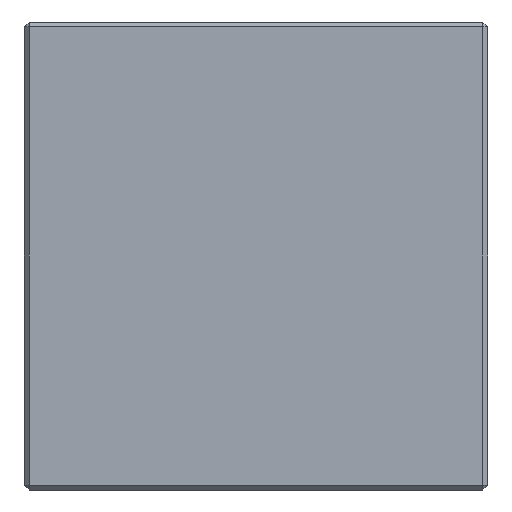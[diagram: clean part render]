
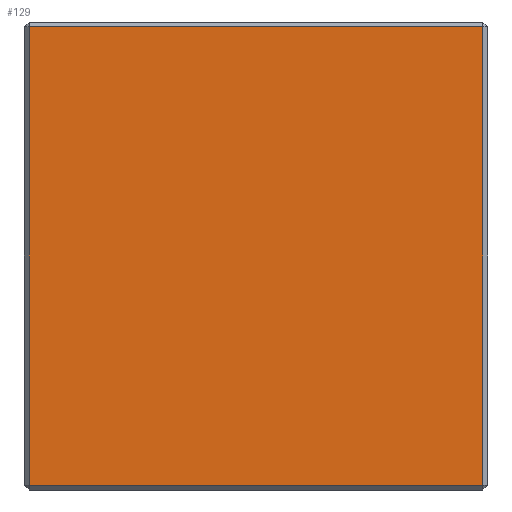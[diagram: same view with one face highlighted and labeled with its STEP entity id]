
A CAD part, front view. The second image highlights one B-rep face of the part: STEP entity #129.
In plain terms, the highlighted planar face has unit normal (0, -1, 0).
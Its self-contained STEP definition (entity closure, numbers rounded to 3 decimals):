
#129=ADVANCED_FACE('',(#726),#728,.T.);
#726=FACE_BOUND('',#727,.T.);
#727=EDGE_LOOP('',(#1219,#1220,#1221,#1222));
#728=PLANE('',#729);
#729=AXIS2_PLACEMENT_3D('',#730,#731,#732);
#730=CARTESIAN_POINT('',(-47.5,-70.,48.));
#731=DIRECTION('',(0.,-1.,0.));
#732=DIRECTION('',(0.,0.,-1.));
#1219=ORIENTED_EDGE('',*,*,#1397,.T.);
#1220=ORIENTED_EDGE('',*,*,#1398,.F.);
#1221=ORIENTED_EDGE('',*,*,#1399,.F.);
#1222=ORIENTED_EDGE('',*,*,#1400,.T.);
#1397=EDGE_CURVE('',#1516,#1517,#1518,.T.);
#1398=EDGE_CURVE('',#1519,#1517,#1520,.T.);
#1399=EDGE_CURVE('',#1521,#1519,#1522,.T.);
#1400=EDGE_CURVE('',#1521,#1516,#1523,.T.);
#1516=VERTEX_POINT('',#1745);
#1517=VERTEX_POINT('',#1746);
#1518=LINE('',#1747,#1748);
#1519=VERTEX_POINT('',#1750);
#1520=LINE('',#1751,#1752);
#1521=VERTEX_POINT('',#1754);
#1522=LINE('',#1755,#1756);
#1523=LINE('',#1758,#1759);
#1745=CARTESIAN_POINT('',(-46.5,-70.,-47.));
#1746=CARTESIAN_POINT('',(46.5,-70.,-47.));
#1747=CARTESIAN_POINT('',(-46.5,-70.,-47.));
#1748=VECTOR('',#1749,1.);
#1749=DIRECTION('',(1.,0.,0.));
#1750=CARTESIAN_POINT('',(46.5,-70.,47.));
#1751=CARTESIAN_POINT('',(46.5,-70.,47.));
#1752=VECTOR('',#1753,1.);
#1753=DIRECTION('',(0.,0.,-1.));
#1754=CARTESIAN_POINT('',(-46.5,-70.,47.));
#1755=CARTESIAN_POINT('',(-46.5,-70.,47.));
#1756=VECTOR('',#1757,1.);
#1757=DIRECTION('',(1.,0.,0.));
#1758=CARTESIAN_POINT('',(-46.5,-70.,47.));
#1759=VECTOR('',#1760,1.);
#1760=DIRECTION('',(0.,0.,-1.));
